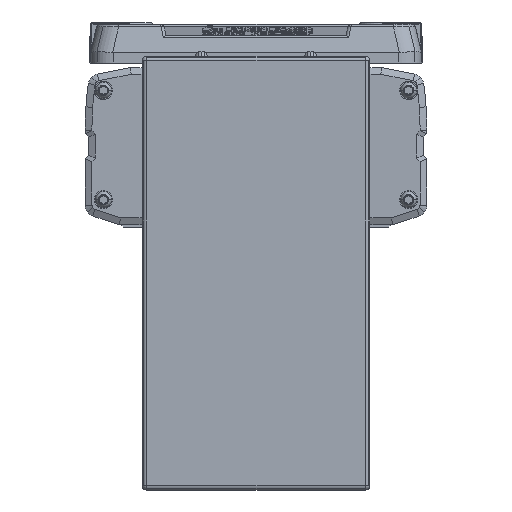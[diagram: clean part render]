
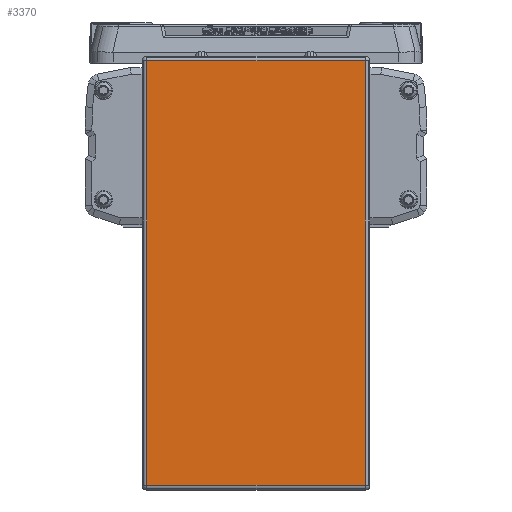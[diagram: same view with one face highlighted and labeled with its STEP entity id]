
A CAD part, left-side view. The second image highlights one B-rep face of the part: STEP entity #3370.
In plain terms, the highlighted planar face has unit normal (-1, 0, 0).
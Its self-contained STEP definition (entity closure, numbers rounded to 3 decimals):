
#3370=ADVANCED_FACE('',(#8243),#8244,.T.);
#8243=FACE_OUTER_BOUND('',#15537,.T.);
#8244=PLANE('',#15538);
#15537=EDGE_LOOP('',(#25670,#25671,#25672,#25673));
#15538=AXIS2_PLACEMENT_3D('',#25674,#25675,#25676);
#25670=ORIENTED_EDGE('',*,*,#42775,.F.);
#25671=ORIENTED_EDGE('',*,*,#42776,.F.);
#25672=ORIENTED_EDGE('',*,*,#42777,.F.);
#25673=ORIENTED_EDGE('',*,*,#42778,.F.);
#25674=CARTESIAN_POINT('',(-45.,0.,-64.2));
#25675=DIRECTION('',(-1.0,0.,0.));
#25676=DIRECTION('',(0.,1.0,0.));
#42775=EDGE_CURVE('',#51983,#51984,#51985,.T.);
#42776=EDGE_CURVE('',#51986,#51983,#51987,.T.);
#42777=EDGE_CURVE('',#51988,#51986,#51989,.T.);
#42778=EDGE_CURVE('',#51984,#51988,#51990,.T.);
#51983=VERTEX_POINT('',#64372);
#51984=VERTEX_POINT('',#64373);
#51985=LINE('',#64374,#64375);
#51986=VERTEX_POINT('',#64376);
#51987=LINE('',#64377,#64378);
#51988=VERTEX_POINT('',#64379);
#51989=LINE('',#64380,#64381);
#51990=LINE('',#64382,#64383);
#64372=CARTESIAN_POINT('',(-45.,48.,29.));
#64373=CARTESIAN_POINT('',(-45.,-48.,29.));
#64374=CARTESIAN_POINT('',(-45.,0.,29.));
#64375=VECTOR('',#77222,10.0);
#64376=CARTESIAN_POINT('',(-45.,48.,-157.4));
#64377=CARTESIAN_POINT('',(-45.,48.,-64.2));
#64378=VECTOR('',#77223,10.0);
#64379=CARTESIAN_POINT('',(-45.,-48.,-157.4));
#64380=CARTESIAN_POINT('',(-45.,0.,-157.4));
#64381=VECTOR('',#77224,10.0);
#64382=CARTESIAN_POINT('',(-45.,-48.,-64.2));
#64383=VECTOR('',#77225,10.0);
#77222=DIRECTION('',(0.0,-1.0,0.));
#77223=DIRECTION('',(0.,0.,1.0));
#77224=DIRECTION('',(0.0,1.0,0.));
#77225=DIRECTION('',(0.,0.,-1.0));
